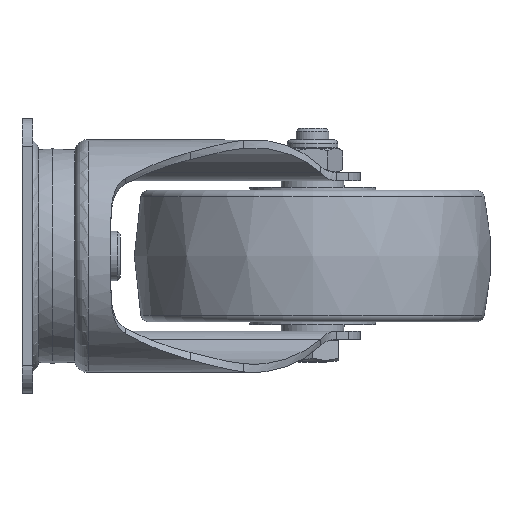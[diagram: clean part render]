
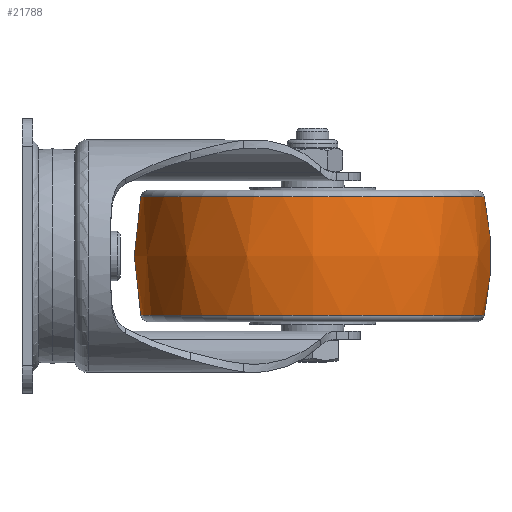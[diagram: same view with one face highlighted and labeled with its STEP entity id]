
A CAD part, left-side view. The second image highlights one B-rep face of the part: STEP entity #21788.
In plain terms, the highlighted free-form (B-spline) face has degree [2, 2] with [3, 9] control points.
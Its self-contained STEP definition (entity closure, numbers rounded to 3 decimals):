
#15=(
BOUNDED_SURFACE()
B_SPLINE_SURFACE(2,2,((#37532,#37533,#37534,#37535,#37536,#37537,#37538,
#37539,#37540),(#37541,#37542,#37543,#37544,#37545,#37546,#37547,#37548,
#37549),(#37550,#37551,#37552,#37553,#37554,#37555,#37556,#37557,#37558)),
 .UNSPECIFIED.,.F.,.T.,.F.)
B_SPLINE_SURFACE_WITH_KNOTS((3,3),(3,2,2,2,3),(-0.217,0.217),
(-3.142,-1.571,0.,1.571,3.142),
 .UNSPECIFIED.)
GEOMETRIC_REPRESENTATION_ITEM()
RATIONAL_B_SPLINE_SURFACE(((1.,0.707,1.,0.707,1.,
0.707,1.,0.707,1.),(0.977,0.691,
0.977,0.691,0.977,0.691,
0.977,0.691,0.977),(1.,0.707,
1.,0.707,1.,0.707,1.,0.707,1.)))
REPRESENTATION_ITEM('')
SURFACE()
);
#5554=FACE_OUTER_BOUND('',#6840,.T.);
#6840=EDGE_LOOP('',(#18639,#18640,#18641,#18642,#18643,#18644));
#7536=CIRCLE('',#23054,62.641);
#7539=CIRCLE('',#23057,62.641);
#7540=CIRCLE('',#23058,100.5);
#7541=CIRCLE('',#23059,62.641);
#7542=CIRCLE('',#23060,62.641);
#10085=VERTEX_POINT('',#37525);
#10086=VERTEX_POINT('',#37526);
#10088=VERTEX_POINT('',#37559);
#10089=VERTEX_POINT('',#37561);
#13038=EDGE_CURVE('',#10085,#10086,#7536,.T.);
#13041=EDGE_CURVE('',#10086,#10085,#7539,.T.);
#13042=EDGE_CURVE('',#10085,#10088,#7540,.T.);
#13043=EDGE_CURVE('',#10089,#10088,#7541,.T.);
#13044=EDGE_CURVE('',#10088,#10089,#7542,.T.);
#18639=ORIENTED_EDGE('',*,*,#13038,.F.);
#18640=ORIENTED_EDGE('',*,*,#13042,.T.);
#18641=ORIENTED_EDGE('',*,*,#13043,.F.);
#18642=ORIENTED_EDGE('',*,*,#13044,.F.);
#18643=ORIENTED_EDGE('',*,*,#13042,.F.);
#18644=ORIENTED_EDGE('',*,*,#13041,.F.);
#21788=ADVANCED_FACE('',(#5554),#15,.F.);
#23054=AXIS2_PLACEMENT_3D('',#37527,#26403,#26404);
#23057=AXIS2_PLACEMENT_3D('',#37531,#26409,#26410);
#23058=AXIS2_PLACEMENT_3D('',#37560,#26411,#26412);
#23059=AXIS2_PLACEMENT_3D('',#37562,#26413,#26414);
#23060=AXIS2_PLACEMENT_3D('',#37563,#26415,#26416);
#26403=DIRECTION('center_axis',(0.,0.,
1.));
#26404=DIRECTION('ref_axis',(0.,1.,0.));
#26409=DIRECTION('center_axis',(0.,0.,
1.));
#26410=DIRECTION('ref_axis',(0.,1.,0.));
#26411=DIRECTION('center_axis',(1.,0.,0.));
#26412=DIRECTION('ref_axis',(0.,-1.,0.));
#26413=DIRECTION('center_axis',(0.,0.,
-1.));
#26414=DIRECTION('ref_axis',(0.,1.,0.));
#26415=DIRECTION('center_axis',(0.,0.,
-1.));
#26416=DIRECTION('ref_axis',(0.,1.,0.));
#37525=CARTESIAN_POINT('',(50.,-168.643,21.646));
#37526=CARTESIAN_POINT('',(50.,-43.36,21.646));
#37527=CARTESIAN_POINT('Origin',(50.,-106.001,21.646));
#37531=CARTESIAN_POINT('Origin',(50.,-106.001,21.646));
#37532=CARTESIAN_POINT('Ctrl Pts',(50.,-168.643,-21.646));
#37533=CARTESIAN_POINT('Ctrl Pts',(112.641,-168.643,-21.646));
#37534=CARTESIAN_POINT('Ctrl Pts',(112.641,-106.001,-21.646));
#37535=CARTESIAN_POINT('Ctrl Pts',(112.641,-43.36,-21.646));
#37536=CARTESIAN_POINT('Ctrl Pts',(50.,-43.36,-21.646));
#37537=CARTESIAN_POINT('Ctrl Pts',(-12.641,-43.36,
-21.646));
#37538=CARTESIAN_POINT('Ctrl Pts',(-12.641,-106.001,
-21.646));
#37539=CARTESIAN_POINT('Ctrl Pts',(-12.641,-168.643,
-21.646));
#37540=CARTESIAN_POINT('Ctrl Pts',(50.,-168.643,-21.646));
#37541=CARTESIAN_POINT('Ctrl Pts',(50.,-173.417,0.));
#37542=CARTESIAN_POINT('Ctrl Pts',(117.415,-173.417,0.));
#37543=CARTESIAN_POINT('Ctrl Pts',(117.415,-106.001,0.));
#37544=CARTESIAN_POINT('Ctrl Pts',(117.415,-38.586,0.));
#37545=CARTESIAN_POINT('Ctrl Pts',(50.,-38.586,0.));
#37546=CARTESIAN_POINT('Ctrl Pts',(-17.415,-38.586,0.));
#37547=CARTESIAN_POINT('Ctrl Pts',(-17.415,-106.001,0.));
#37548=CARTESIAN_POINT('Ctrl Pts',(-17.415,-173.417,0.));
#37549=CARTESIAN_POINT('Ctrl Pts',(50.,-173.417,0.));
#37550=CARTESIAN_POINT('Ctrl Pts',(50.,-168.643,21.646));
#37551=CARTESIAN_POINT('Ctrl Pts',(112.641,-168.643,21.646));
#37552=CARTESIAN_POINT('Ctrl Pts',(112.641,-106.001,21.646));
#37553=CARTESIAN_POINT('Ctrl Pts',(112.641,-43.36,21.646));
#37554=CARTESIAN_POINT('Ctrl Pts',(50.,-43.36,21.646));
#37555=CARTESIAN_POINT('Ctrl Pts',(-12.641,-43.36,
21.646));
#37556=CARTESIAN_POINT('Ctrl Pts',(-12.641,-106.001,
21.646));
#37557=CARTESIAN_POINT('Ctrl Pts',(-12.641,-168.643,
21.646));
#37558=CARTESIAN_POINT('Ctrl Pts',(50.,-168.643,21.646));
#37559=CARTESIAN_POINT('',(50.,-168.643,-21.646));
#37560=CARTESIAN_POINT('Origin',(50.,-70.501,0.));
#37561=CARTESIAN_POINT('',(50.,-43.36,-21.646));
#37562=CARTESIAN_POINT('Origin',(50.,-106.001,-21.646));
#37563=CARTESIAN_POINT('Origin',(50.,-106.001,-21.646));
